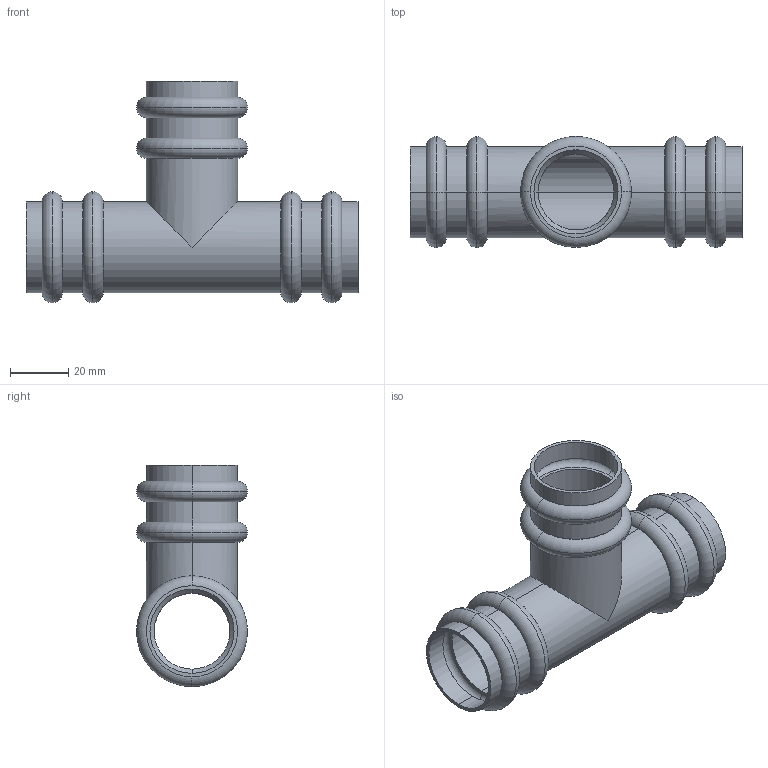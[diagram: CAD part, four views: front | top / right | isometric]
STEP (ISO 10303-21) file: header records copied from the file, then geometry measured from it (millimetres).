
FILE_DESCRIPTION(('starvars output'),'1');
FILE_NAME('cv20240422105018000011861.stp','10:50:19 2024/04/22',('Thomas Industrial Network Germany GmbH'),(' '),'Spatial InterOp 3D',' ',' ');
FILE_SCHEMA(('AUTOMOTIVE_DESIGN { 1 0 10303 214 3 1 1 }'));
Length unit declared in the file: millimetre
Products named in the file (1): 1
Bounding box: 114 x 38.1 x 76.05 mm (x, y, z)
Volume: 26688.8 mm3; surface area: 35605.1 mm2
Topology: 1 solids, 1 shells, 119 faces, 246 edges, 152 vertices
Faces by surface type: torus 48, cylinder 38, plane 27, cone 6
Entity records: 4216 total; most frequent: DIRECTION 686, CARTESIAN_POINT 518, ORIENTED_EDGE 492, AXIS2_PLACEMENT_3D 320, EDGE_CURVE 246, CIRCLE 192, VERTEX_POINT 152, EDGE_LOOP 146
